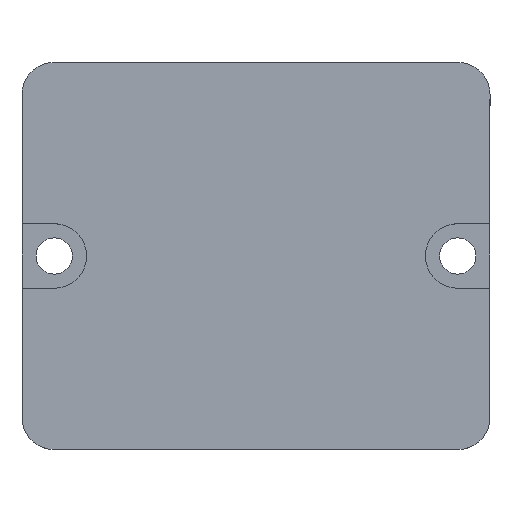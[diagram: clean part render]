
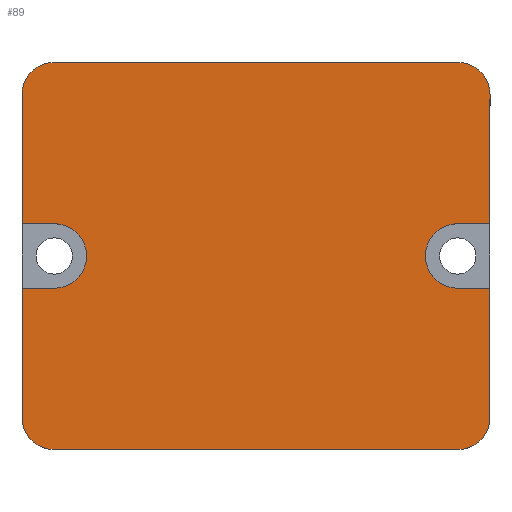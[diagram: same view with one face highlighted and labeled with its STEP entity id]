
A CAD part, top view. The second image highlights one B-rep face of the part: STEP entity #89.
In plain terms, the highlighted planar face has unit normal (0, 0, 1).
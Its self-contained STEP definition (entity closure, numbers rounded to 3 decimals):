
#89=ADVANCED_FACE('',(#265),#267,.T.);
#265=FACE_BOUND('',#266,.T.);
#266=EDGE_LOOP('',(#405,#406,#407,#408,#409,#410,#411,#412,#413,#414,#415,#416,#417,
#418,#419,#420));
#267=PLANE('',#268);
#268=AXIS2_PLACEMENT_3D('',#269,#270,#271);
#269=CARTESIAN_POINT('',(0.,0.,6.));
#270=DIRECTION('',(0.,0.,1.));
#271=DIRECTION('',(-1.,0.,0.));
#405=ORIENTED_EDGE('',*,*,#509,.T.);
#406=ORIENTED_EDGE('',*,*,#504,.T.);
#407=ORIENTED_EDGE('',*,*,#510,.T.);
#408=ORIENTED_EDGE('',*,*,#511,.T.);
#409=ORIENTED_EDGE('',*,*,#512,.T.);
#410=ORIENTED_EDGE('',*,*,#492,.T.);
#411=ORIENTED_EDGE('',*,*,#513,.T.);
#412=ORIENTED_EDGE('',*,*,#514,.T.);
#413=ORIENTED_EDGE('',*,*,#515,.T.);
#414=ORIENTED_EDGE('',*,*,#496,.T.);
#415=ORIENTED_EDGE('',*,*,#516,.T.);
#416=ORIENTED_EDGE('',*,*,#517,.T.);
#417=ORIENTED_EDGE('',*,*,#518,.T.);
#418=ORIENTED_EDGE('',*,*,#500,.T.);
#419=ORIENTED_EDGE('',*,*,#519,.T.);
#420=ORIENTED_EDGE('',*,*,#520,.T.);
#492=EDGE_CURVE('',#548,#546,#549,.T.);
#496=EDGE_CURVE('',#541,#554,#556,.T.);
#500=EDGE_CURVE('',#564,#562,#565,.T.);
#504=EDGE_CURVE('',#557,#570,#572,.T.);
#509=EDGE_CURVE('',#581,#557,#582,.F.);
#510=EDGE_CURVE('',#570,#583,#584,.T.);
#511=EDGE_CURVE('',#583,#585,#586,.T.);
#512=EDGE_CURVE('',#585,#548,#587,.T.);
#513=EDGE_CURVE('',#546,#588,#589,.F.);
#514=EDGE_CURVE('',#588,#590,#591,.F.);
#515=EDGE_CURVE('',#590,#541,#592,.F.);
#516=EDGE_CURVE('',#554,#593,#594,.T.);
#517=EDGE_CURVE('',#593,#595,#596,.T.);
#518=EDGE_CURVE('',#595,#564,#597,.T.);
#519=EDGE_CURVE('',#562,#598,#599,.F.);
#520=EDGE_CURVE('',#598,#581,#600,.F.);
#541=VERTEX_POINT('',#629);
#546=VERTEX_POINT('',#638);
#548=VERTEX_POINT('',#642);
#549=LINE('',#643,#644);
#554=VERTEX_POINT('',#654);
#556=LINE('',#658,#659);
#557=VERTEX_POINT('',#661);
#562=VERTEX_POINT('',#670);
#564=VERTEX_POINT('',#674);
#565=LINE('',#675,#676);
#570=VERTEX_POINT('',#686);
#572=LINE('',#690,#691);
#581=VERTEX_POINT('',#713);
#582=LINE('',#714,#715);
#583=VERTEX_POINT('',#717);
#584=CIRCLE('',#718,4.);
#585=VERTEX_POINT('',#722);
#586=LINE('',#723,#724);
#587=CIRCLE('',#726,4.);
#588=VERTEX_POINT('',#730);
#589=LINE('',#731,#732);
#590=VERTEX_POINT('',#734);
#591=CIRCLE('',#735,4.);
#592=LINE('',#739,#740);
#593=VERTEX_POINT('',#742);
#594=CIRCLE('',#743,4.);
#595=VERTEX_POINT('',#747);
#596=LINE('',#748,#749);
#597=CIRCLE('',#751,4.);
#598=VERTEX_POINT('',#755);
#599=LINE('',#756,#757);
#600=CIRCLE('',#759,4.);
#629=CARTESIAN_POINT('',(29.,29.,6.));
#638=CARTESIAN_POINT('',(29.,21.,6.));
#642=CARTESIAN_POINT('',(29.,5.,6.));
#643=CARTESIAN_POINT('',(29.,5.,6.));
#644=VECTOR('',#645,1.);
#645=DIRECTION('',(0.,1.,0.));
#654=CARTESIAN_POINT('',(29.,45.,6.));
#658=CARTESIAN_POINT('',(29.,29.,6.));
#659=VECTOR('',#660,1.);
#660=DIRECTION('',(0.,1.,0.));
#661=CARTESIAN_POINT('',(-29.,21.,6.));
#670=CARTESIAN_POINT('',(-29.,29.,6.));
#674=CARTESIAN_POINT('',(-29.,45.,6.));
#675=CARTESIAN_POINT('',(-29.,45.,6.));
#676=VECTOR('',#677,1.);
#677=DIRECTION('',(0.,-1.,0.));
#686=CARTESIAN_POINT('',(-29.,5.,6.));
#690=CARTESIAN_POINT('',(-29.,21.,6.));
#691=VECTOR('',#692,1.);
#692=DIRECTION('',(0.,-1.,0.));
#713=CARTESIAN_POINT('',(-25.,21.,6.));
#714=CARTESIAN_POINT('',(-29.,21.,6.));
#715=VECTOR('',#716,1.);
#716=DIRECTION('',(1.,0.,0.));
#717=CARTESIAN_POINT('',(-25.,1.,6.));
#718=AXIS2_PLACEMENT_3D('',#719,#720,#721);
#719=CARTESIAN_POINT('',(-25.,5.,6.));
#720=DIRECTION('',(0.,0.,1.));
#721=DIRECTION('',(-1.,0.,0.));
#722=CARTESIAN_POINT('',(25.,1.,6.));
#723=CARTESIAN_POINT('',(-25.,1.,6.));
#724=VECTOR('',#725,1.);
#725=DIRECTION('',(1.,0.,0.));
#726=AXIS2_PLACEMENT_3D('',#727,#728,#729);
#727=CARTESIAN_POINT('',(25.,5.,6.));
#728=DIRECTION('',(0.,0.,1.));
#729=DIRECTION('',(0.,-1.,0.));
#730=CARTESIAN_POINT('',(25.,21.,6.));
#731=CARTESIAN_POINT('',(25.,21.,6.));
#732=VECTOR('',#733,1.);
#733=DIRECTION('',(1.,0.,0.));
#734=CARTESIAN_POINT('',(25.,29.,6.));
#735=AXIS2_PLACEMENT_3D('',#736,#737,#738);
#736=CARTESIAN_POINT('',(25.,25.,6.));
#737=DIRECTION('',(0.,0.,1.));
#738=DIRECTION('',(0.,1.,0.));
#739=CARTESIAN_POINT('',(29.,29.,6.));
#740=VECTOR('',#741,1.);
#741=DIRECTION('',(-1.,0.,0.));
#742=CARTESIAN_POINT('',(25.,49.,6.));
#743=AXIS2_PLACEMENT_3D('',#744,#745,#746);
#744=CARTESIAN_POINT('',(25.,45.,6.));
#745=DIRECTION('',(0.,0.,1.));
#746=DIRECTION('',(1.,0.,0.));
#747=CARTESIAN_POINT('',(-25.,49.,6.));
#748=CARTESIAN_POINT('',(25.,49.,6.));
#749=VECTOR('',#750,1.);
#750=DIRECTION('',(-1.,0.,0.));
#751=AXIS2_PLACEMENT_3D('',#752,#753,#754);
#752=CARTESIAN_POINT('',(-25.,45.,6.));
#753=DIRECTION('',(0.,0.,1.));
#754=DIRECTION('',(0.,1.,0.));
#755=CARTESIAN_POINT('',(-25.,29.,6.));
#756=CARTESIAN_POINT('',(-25.,29.,6.));
#757=VECTOR('',#758,1.);
#758=DIRECTION('',(-1.,0.,0.));
#759=AXIS2_PLACEMENT_3D('',#760,#761,#762);
#760=CARTESIAN_POINT('',(-25.,25.,6.));
#761=DIRECTION('',(0.,0.,1.));
#762=DIRECTION('',(0.,-1.,0.));
